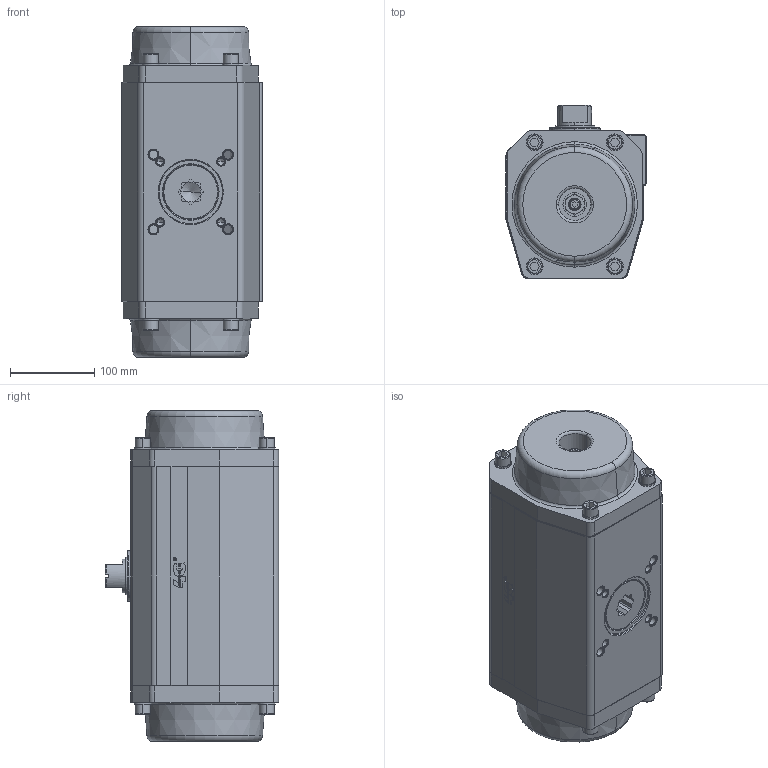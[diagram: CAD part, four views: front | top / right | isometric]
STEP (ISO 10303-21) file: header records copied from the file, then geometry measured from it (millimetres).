
FILE_DESCRIPTION((''),'2;1');
FILE_NAME('79005084500_ALPHAIR_145','2016-04-28T',('UFFICIO TECNICO'),('CDM Tecnoconsulting'),'CREO PARAMETRIC BY PTC INC, 2015290','CREO PARAMETRIC BY PTC INC, 2015290','');
FILE_SCHEMA(('CONFIG_CONTROL_DESIGN'));
Length unit declared in the file: millimetre
Products named in the file (1): 79005084500_ALPHAIR_145
Bounding box: 166 x 205.15 x 392 mm (x, y, z)
Volume: 5445356.1 mm3; surface area: 548399.7 mm2
Topology: 1 solids, 62 shells, 1012 faces, 2481 edges, 1563 vertices
Faces by surface type: plane 418, cylinder 288, cone 200, extrusion 56, torus 50
Entity records: 31892 total; most frequent: CARTESIAN_POINT 6842, DIRECTION 4993, ORIENTED_EDGE 4702, EDGE_CURVE 2433, AXIS2_PLACEMENT_3D 1811, VERTEX_POINT 1563, VECTOR 1371, LINE 1315
